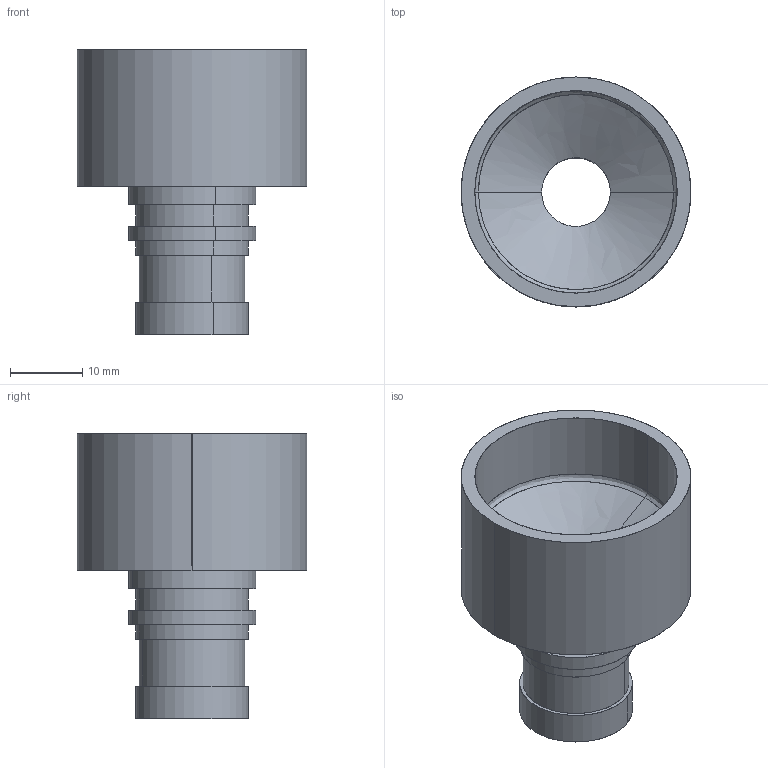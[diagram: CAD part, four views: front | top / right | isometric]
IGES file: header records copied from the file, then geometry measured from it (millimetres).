
Start section: SolidWorks IGES file using analytic representation for surfaces
Global section: file name: 12.7^70-仩R31.8-PH.IGS,; native system: SolidWorks 2012; preprocessor: SolidWorks 2012; author: harada; date: 130902.111806; units: millimetre
Bounding box: 31.8 x 31.8 x 39.5 mm (x, y, z)
Surface area: 6254.4 mm2 (no closed solid volume)
Topology: 0 solids, 0 shells, 33 faces, 772 edges, 772 vertices
Faces by surface type: revolution 22, bspline 11
